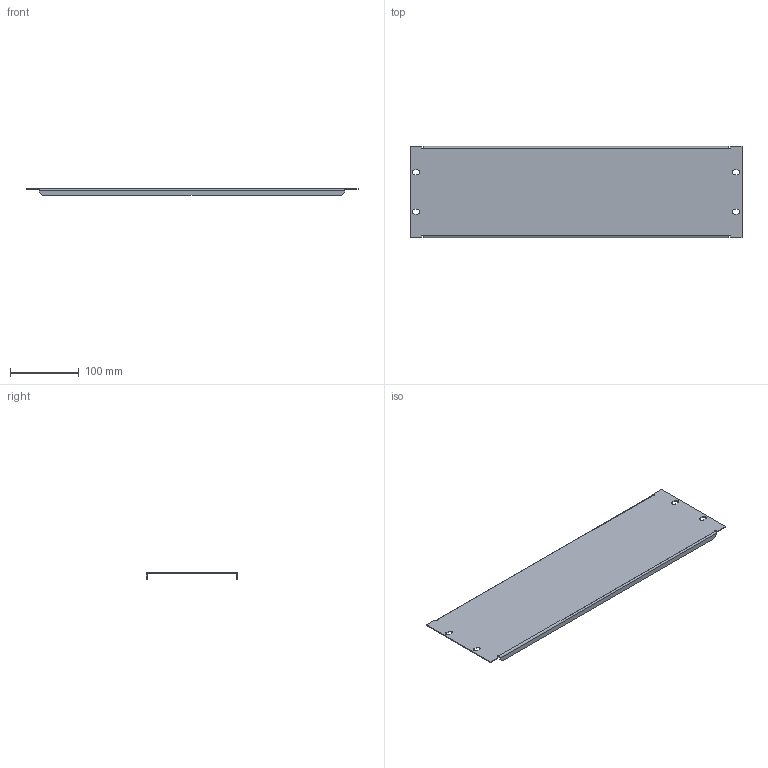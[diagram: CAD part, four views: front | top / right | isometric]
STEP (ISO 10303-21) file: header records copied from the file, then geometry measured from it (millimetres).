
FILE_DESCRIPTION (( 'STEP AP203' ), '1' );
FILE_NAME ('MB 30.48 I Ïàíåëü ãëóõàÿ 19''''.STEP', '2013-01-12T07:02:52', ( 'System' ), ( '' ), 'SwSTEP 2.0', 'SolidWorks 2012', '' );
FILE_SCHEMA (( 'CONFIG_CONTROL_DESIGN' ));
Length unit declared in the file: millimetre
Products named in the file (1): MB 30.48 I Ïàíåëü ãëóõàÿ 19''''
Bounding box: 482.6 x 132.5 x 10 mm (x, y, z)
Volume: 84885.4 mm3; surface area: 143149.4 mm2
Topology: 1 solids, 1 shells, 58 faces, 152 edges, 96 vertices
Faces by surface type: plane 38, cylinder 20
Entity records: 1861 total; most frequent: DIRECTION 310, CARTESIAN_POINT 307, ORIENTED_EDGE 304, EDGE_CURVE 152, VECTOR 112, LINE 112, AXIS2_PLACEMENT_3D 99, VERTEX_POINT 96
